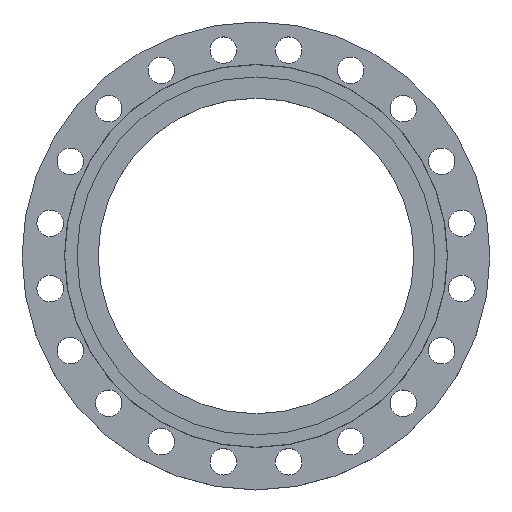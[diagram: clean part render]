
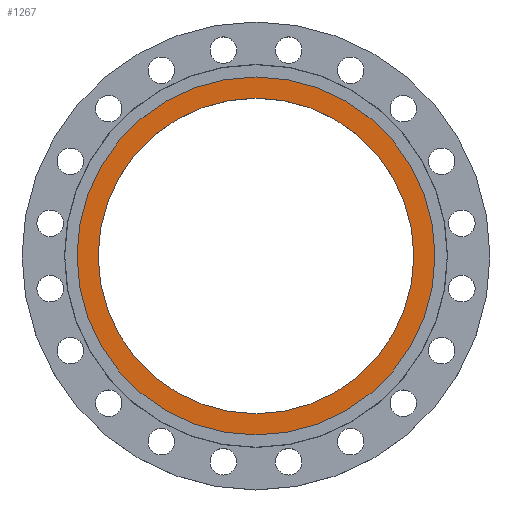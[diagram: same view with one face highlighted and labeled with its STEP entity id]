
A CAD part, top view. The second image highlights one B-rep face of the part: STEP entity #1267.
In plain terms, the highlighted planar face has unit normal (0, 0, 1).
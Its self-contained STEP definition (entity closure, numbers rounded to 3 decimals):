
#4 = DIRECTION ( 'NONE',  ( 1., 0., 0. ) ) ;
#11 = CARTESIAN_POINT ( 'NONE',  ( 0., 0., -5. ) ) ;
#55 = DIRECTION ( 'NONE',  ( -1., 0., 0. ) ) ;
#57 = DIRECTION ( 'NONE',  ( 0., 0., -1. ) ) ;
#59 = CARTESIAN_POINT ( 'NONE',  ( 0., 0., -5. ) ) ;
#87 = CARTESIAN_POINT ( 'NONE',  ( 231., 0., -5. ) ) ;
#204 = PLANE ( 'NONE',  #437 ) ;
#224 = DIRECTION ( 'NONE',  ( 1., 0., 0. ) ) ;
#289 = CARTESIAN_POINT ( 'NONE',  ( -262., 0., -5. ) ) ;
#293 = CARTESIAN_POINT ( 'NONE',  ( 262., 0., -5. ) ) ;
#437 = AXIS2_PLACEMENT_3D ( 'NONE', #1057, #1658, #4 ) ;
#575 = VERTEX_POINT ( 'NONE', #293 ) ;
#581 = VERTEX_POINT ( 'NONE', #289 ) ;
#655 = DIRECTION ( 'NONE',  ( 0., 0., 1. ) ) ;
#775 = ORIENTED_EDGE ( 'NONE', *, *, #879, .F. ) ;
#776 = ORIENTED_EDGE ( 'NONE', *, *, #1581, .F. ) ;
#777 = ORIENTED_EDGE ( 'NONE', *, *, #1891, .F. ) ;
#780 = ORIENTED_EDGE ( 'NONE', *, *, #1584, .F. ) ;
#838 = VERTEX_POINT ( 'NONE', #87 ) ;
#868 = DIRECTION ( 'NONE',  ( 0., 0., -1. ) ) ;
#879 = EDGE_CURVE ( 'NONE', #575, #581, #1476, .T. ) ;
#1057 = CARTESIAN_POINT ( 'NONE',  ( 262., 0., -5. ) ) ;
#1098 = AXIS2_PLACEMENT_3D ( 'NONE', #1188, #1791, #224 ) ;
#1146 = CARTESIAN_POINT ( 'NONE',  ( -231., 0., -5. ) ) ;
#1171 = FACE_BOUND ( 'NONE', #1208, .T. ) ;
#1174 = EDGE_LOOP ( 'NONE', ( #776, #775 ) ) ;
#1188 = CARTESIAN_POINT ( 'NONE',  ( 0., 0., -5. ) ) ;
#1208 = EDGE_LOOP ( 'NONE', ( #780, #777 ) ) ;
#1267 = ADVANCED_FACE ( 'NONE', ( #1171, #1779 ), #204, .T. ) ;
#1348 = DIRECTION ( 'NONE',  ( 1., 0., 0. ) ) ;
#1476 = CIRCLE ( 'NONE', #1490, 262. ) ;
#1490 = AXIS2_PLACEMENT_3D ( 'NONE', #59, #57, #55 ) ;
#1523 = DIRECTION ( 'NONE',  ( -1., 0., 0. ) ) ;
#1536 = VERTEX_POINT ( 'NONE', #1146 ) ;
#1581 = EDGE_CURVE ( 'NONE', #581, #575, #1670, .T. ) ;
#1584 = EDGE_CURVE ( 'NONE', #838, #1536, #1674, .T. ) ;
#1658 = DIRECTION ( 'NONE',  ( 0., 0., 1. ) ) ;
#1670 = CIRCLE ( 'NONE', #1673, 262. ) ;
#1673 = AXIS2_PLACEMENT_3D ( 'NONE', #11, #868, #1523 ) ;
#1674 = CIRCLE ( 'NONE', #1676, 231. ) ;
#1676 = AXIS2_PLACEMENT_3D ( 'NONE', #1940, #655, #1348 ) ;
#1779 = FACE_OUTER_BOUND ( 'NONE', #1174, .T. ) ;
#1791 = DIRECTION ( 'NONE',  ( 0., 0., 1. ) ) ;
#1891 = EDGE_CURVE ( 'NONE', #1536, #838, #1895, .T. ) ;
#1895 = CIRCLE ( 'NONE', #1098, 231. ) ;
#1940 = CARTESIAN_POINT ( 'NONE',  ( 0., 0., -5. ) ) ;
